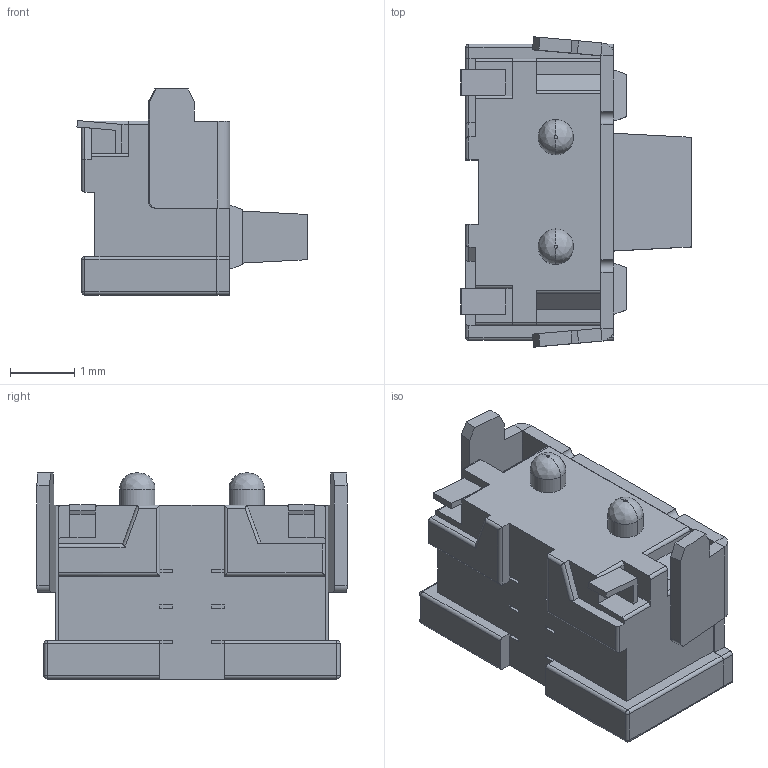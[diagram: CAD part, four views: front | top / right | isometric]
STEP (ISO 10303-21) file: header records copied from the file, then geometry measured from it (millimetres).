
FILE_DESCRIPTION((''),'2;1');
FILE_NAME('JQD2746-B0351-ADG-1-105_ASM','2026-06-01T09:44:43',('Admin'),(''),'CREO PARAMETRIC BY PTC INC, 2019224','CREO PARAMETRIC BY PTC INC, 2019224','');
FILE_SCHEMA(('AUTOMOTIVE_DESIGN { 1 0 10303 214 1 1 1 1 }'));
Length unit declared in the file: millimetre
Products named in the file (3): JQD2746-B0351-ADG-1-105_01; JQD2746-B0351-ADG-1-105_04; JQD2746-B0351-ADG-1-105_ASM
Assembly tree (2 placements, depth 2):
  JQD2746-B0351-ADG-1-105_ASM
    JQD2746-B0351-ADG-1-105_01
    JQD2746-B0351-ADG-1-105_04
Bounding box: 3.57 x 4.82 x 3.2 mm (x, y, z)
Volume: 27.1 mm3; surface area: 102.8 mm2
Topology: 2 solids, 2 shells, 210 faces, 548 edges, 354 vertices
Faces by surface type: plane 155, cylinder 45, sphere 6, bspline 4
Entity records: 7922 total; most frequent: CARTESIAN_POINT 1296, ORIENTED_EDGE 1084, DIRECTION 1058, EDGE_CURVE 542, VECTOR 452, LINE 452, PRESENTATION_STYLE_ASSIGNMENT 402, STYLED_ITEM 397
